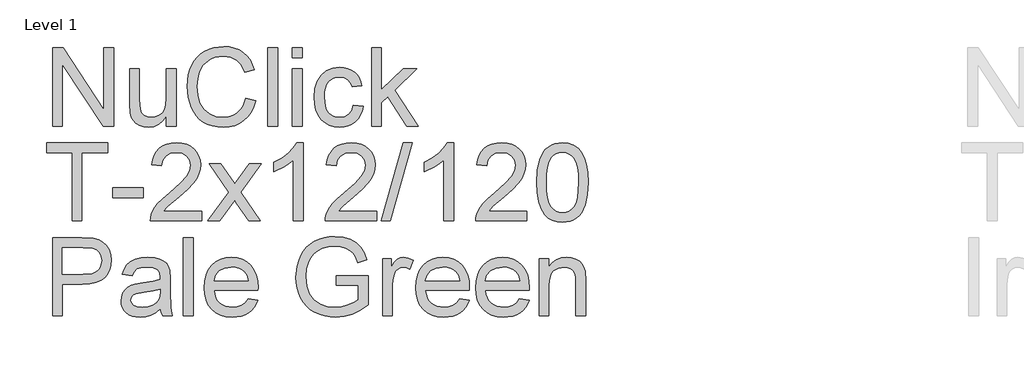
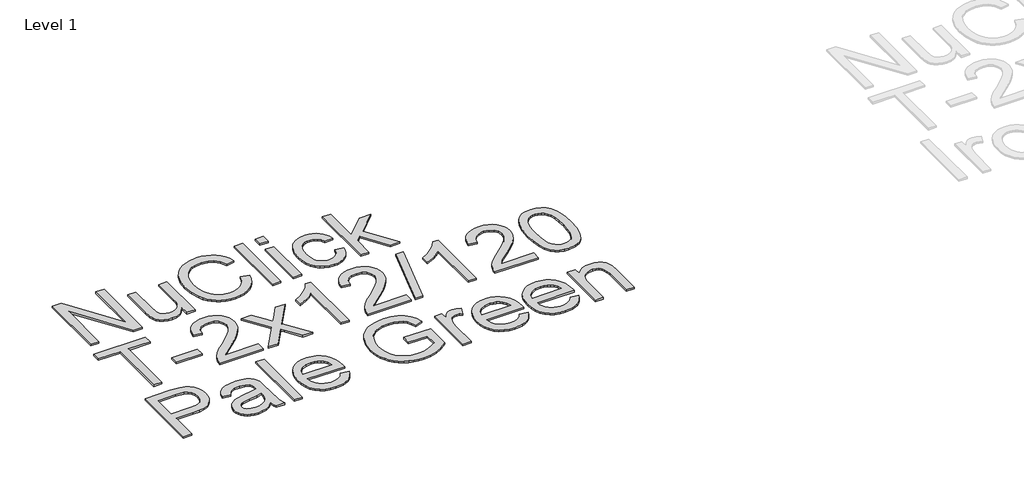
# One storey, part 9 of 13: 1 proxy.
"""IFC4 building model written with IfcOpenShell, lengths in millimetres."""

from ifc_helpers import new_model, si_unit, frame, origin, place, context, project, spatial, polyline, outline, extrude, element, save

model = new_model("IFC4")

# Units and contexts
model_context = context("Model", 3, world=origin())
ifc_project = project(units=[si_unit("LENGTHUNIT", "METRE", prefix="MILLI")], contexts=[model_context])

# Site, building, storey
site = spatial("IfcSite", under=ifc_project)
building = spatial("IfcBuilding", under=site)
storey = spatial("IfcBuildingStorey", under=building, Name="Level 1", Elevation=4000.0)

# Proxy
placement = place(None, origin())
element("IfcBuildingElementProxy", 1, Name="Elysium 400mm Arial", ObjectType="Elysium 400mm Arial", at=placement, inside=storey, context=model_context, shape_type="SweptSolid", body=[
    extrude(outline(polyline([(43483.147161, -9059.2083157), (43483.147161, -8657.3830752), (43536.9069832, -8657.3830752), (43746.8449751, -8975.7236283), (43746.8449751, -8657.3830752), (43797.0731302, -8657.3830752), (43797.0731302, -9059.2083157), (43743.313308, -9059.2083157), (43533.3753161, -8740.7696607), (43533.3753161, -9059.2083157), (43483.147161, -9059.2083157)])), frame((0.0, 0.0, 4000.0), z_axis=(0.0, 0.0, 1.0), x_axis=(1.0, 0.0, 0.0)), (0.0, 0.0, 1.0), 10.0),
    extrude(outline(polyline([(44067.0494637, -9059.2083157), (44067.0494637, -9008.4896513), (44048.8760932, -9033.4259193), (44027.7106157, -9051.2375392), (44003.5530314, -9061.9245111), (43976.4033401, -9065.4868351), (43951.9391875, -9062.9852376), (43929.167292, -9055.4804449), (43910.0619537, -9044.1987303), (43896.5974726, -9030.3663673), (43887.5353128, -9013.5664229), (43881.6369382, -8993.3819641), (43878.6938822, -8946.6854762), (43878.6938822, -8764.1179047), (43928.9220373, -8764.1179047), (43928.9220373, -8923.0429266), (43931.9631951, -8974.2521003), (43939.2840468, -8991.3340876), (43951.8288229, -9004.3203221), (43968.7636574, -9012.5240906), (43989.2546845, -9015.2586801), (44010.922934, -9012.4627769), (44031.1932319, -9004.0750674), (44047.9073373, -8990.8681038), (44058.9070089, -8973.6144382), (44065.01385, -8949.9841514), (44067.0494637, -8917.647324), (44067.0494637, -8764.1179047), (44117.2776188, -8764.1179047), (44117.2776188, -9059.2083157), (44067.0494637, -9059.2083157)])), frame((0.0, 0.0, 4000.0), z_axis=(0.0, 0.0, 1.0), x_axis=(1.0, 0.0, 0.0)), (0.0, 0.0, 1.0), 10.0),
    extrude(outline(polyline([(44475.1532237, -8916.3719998), (44525.3813788, -8929.321446), (44515.4424336, -8960.5576931), (44502.2048131, -8987.8514714), (44485.6685174, -9011.2027811), (44465.8335465, -9030.611622), (44443.1474901, -9045.8695277), (44418.0579381, -9056.7680318), (44390.5648903, -9063.3071343), (44360.6683468, -9065.4868351), (44330.039105, -9063.8374975), (44302.4081015, -9058.8894847), (44277.7753363, -9050.6427966), (44256.1408093, -9039.0974333), (44237.2071492, -9024.4250731), (44220.6769849, -9006.7973942), (44206.5503163, -8986.2143965), (44194.8271434, -8962.6760802), (44179.0450058, -8910.8047189), (44173.7842933, -8855.2545376), (44179.7317189, -8796.6631985), (44187.1660009, -8770.3657672), (44197.5739956, -8746.0671615), (44210.7227113, -8724.1689857), (44226.3791559, -8705.0728445), (44244.5433294, -8688.7787378), (44265.2152318, -8675.2866656), (44287.6928217, -8664.7069925), (44311.2740576, -8657.1500832), (44361.7474673, -8651.1045558), (44390.4759855, -8653.0604617), (44416.819402, -8658.9281795), (44440.777717, -8668.7077092), (44462.3509303, -8682.3990508), (44481.1834228, -8699.6404537), (44496.9195751, -8720.0701671), (44509.5593873, -8743.6881912), (44519.1028594, -8770.4945259), (44468.8747043, -8782.4629535), (44451.4616232, -8745.8341695), (44427.6719209, -8720.7078293), (44397.2112917, -8706.1764904), (44359.78543, -8701.3327108), (44316.6451347, -8706.703788), (44297.9628608, -8713.4176344), (44281.2058359, -8722.8170194), (44254.313662, -8747.9801478), (44236.8147418, -8780.5009162), (44227.2130217, -8817.2645903), (44224.0124484, -8855.1564358), (44227.8016329, -8901.5586181), (44239.1691866, -8941.682281), (44258.544305, -8973.9945829), (44286.3561838, -8996.9626822), (44319.6985553, -9010.6846806), (44355.6651517, -9015.2586801), (44377.5020138, -9013.7013129), (44397.5914364, -9009.0292116), (44415.9334196, -9001.242376), (44432.5279632, -8990.3408063), (44446.9826599, -8976.3735532), (44458.9051023, -8959.3896677), (44468.2952902, -8939.3891499), (44475.1532237, -8916.3719998)])), frame((0.0, 0.0, 4000.0), z_axis=(0.0, 0.0, 1.0), x_axis=(1.0, 0.0, 0.0)), (0.0, 0.0, 1.0), 10.0),
    extrude(outline(polyline([(44588.1665726, -9059.2083157), (44588.1665726, -8657.3830752), (44638.3947277, -8657.3830752), (44638.3947277, -9059.2083157), (44588.1665726, -9059.2083157)])), frame((0.0, 0.0, 4000.0), z_axis=(0.0, 0.0, 1.0), x_axis=(1.0, 0.0, 0.0)), (0.0, 0.0, 1.0), 10.0),
    extrude(outline(polyline([(44713.7369603, -8707.6112302), (44713.7369603, -8657.3830752), (44763.9651154, -8657.3830752), (44763.9651154, -8707.6112302), (44713.7369603, -8707.6112302)])), frame((0.0, 0.0, 4000.0), z_axis=(0.0, 0.0, 1.0), x_axis=(1.0, 0.0, 0.0)), (0.0, 0.0, 1.0), 10.0),
    extrude(outline(polyline([(44713.7369603, -9059.2083157), (44713.7369603, -8764.1179047), (44763.9651154, -8764.1179047), (44763.9651154, -9059.2083157), (44713.7369603, -9059.2083157)])), frame((0.0, 0.0, 4000.0), z_axis=(0.0, 0.0, 1.0), x_axis=(1.0, 0.0, 0.0)), (0.0, 0.0, 1.0), 10.0),
    extrude(outline(polyline([(45027.6629296, -8952.4734862), (45077.8910846, -8958.7520056), (45072.428037, -8982.4528031), (45063.8870433, -9003.4251425), (45052.2681037, -9021.6690238), (45037.571218, -9037.184447), (45020.4156542, -9049.5667418), (45001.4206806, -9058.4112381), (44980.5862969, -9063.7179359), (44957.9125033, -9065.4868351), (44929.7419395, -9063.0189601), (44904.4837748, -9055.6153349), (44882.1380093, -9043.2759597), (44862.7046429, -9026.0008343), (44846.9746219, -9004.1149213), (44835.7388927, -8977.943183), (44828.9974551, -8947.4856195), (44826.7503093, -8912.7422307), (44830.5885447, -8868.0445683), (44842.1032512, -8829.3065942), (44861.4783696, -8798.0243619), (44888.897841, -8775.6939248), (44921.7006522, -8762.3030202), (44957.2257902, -8757.8393853), (44979.5102421, -8759.3722269), (44999.6671097, -8763.9707519), (45017.6963932, -8771.6349601), (45033.5980924, -8782.3648516), (45047.1024273, -8795.9151718), (45057.9396178, -8812.0406659), (45066.1096637, -8830.741334), (45071.6125652, -8852.0171761), (45021.3844102, -8858.2956955), (45012.2731994, -8836.3821913), (44998.0852171, -8820.6736301), (44979.6052782, -8811.2190628), (44957.6181977, -8808.0675404), (44940.5515388, -8809.6187761), (44925.158743, -8814.2724834), (44911.4398102, -8822.0286621), (44899.3947406, -8832.8873123), (44889.5876197, -8847.0998201), (44882.5825334, -8864.9175714), (44878.3794816, -8886.3405662), (44876.9784643, -8911.3688046), (44882.4599061, -8958.4454373), (44889.3117082, -8976.3827502), (44898.9042312, -8990.5860609), (44910.7101776, -9001.3803318), (44924.2022498, -9009.0905253), (44939.3804478, -9013.7166414), (44956.2447716, -9015.2586801), (44982.2540286, -9011.4081818), (45003.5789216, -8999.8566872), (45019.0912791, -8980.3098905), (45027.6629296, -8952.4734862)])), frame((0.0, 0.0, 4000.0), z_axis=(0.0, 0.0, 1.0), x_axis=(1.0, 0.0, 0.0)), (0.0, 0.0, 1.0), 10.0),
    extrude(outline(polyline([(45121.8407203, -9059.2083157), (45121.8407203, -8657.3830752), (45172.0688754, -8657.3830752), (45172.0688754, -8873.3052809), (45284.6898168, -8764.1179047), (45354.1459375, -8764.1179047), (45240.15157, -8874.678707), (45360.4244569, -9059.2083157), (45301.7595414, -9059.2083157), (45204.1481854, -8909.602971), (45172.0688754, -8940.7012624), (45172.0688754, -9059.2083157), (45121.8407203, -9059.2083157)])), frame((0.0, 0.0, 4000.0), z_axis=(0.0, 0.0, 1.0), x_axis=(1.0, 0.0, 0.0)), (0.0, 0.0, 1.0), 10.0),
    extrude(outline(polyline([(43583.6034712, -9547.1075871), (43583.6034712, -9195.5105016), (43451.7545641, -9195.5105016), (43451.7545641, -9145.2823465), (43765.6805333, -9145.2823465), (43765.6805333, -9195.5105016), (43633.8316262, -9195.5105016), (43633.8316262, -9547.1075871), (43583.6034712, -9547.1075871)])), frame((0.0, 0.0, 4000.0), z_axis=(0.0, 0.0, 1.0), x_axis=(1.0, 0.0, 0.0)), (0.0, 0.0, 1.0), 10.0),
    extrude(outline(polyline([(43790.7946108, -9427.8157188), (43790.7946108, -9377.5875638), (43947.7575954, -9377.5875638), (43947.7575954, -9427.8157188), (43790.7946108, -9427.8157188)])), frame((0.0, 0.0, 4000.0), z_axis=(0.0, 0.0, 1.0), x_axis=(1.0, 0.0, 0.0)), (0.0, 0.0, 1.0), 10.0),
    extrude(outline(polyline([(44249.1265259, -9496.8794321), (44249.1265259, -9547.1075871), (43985.4287117, -9547.1075871), (43986.5323577, -9529.4247259), (43990.8243143, -9512.4776287), (44003.2096748, -9485.4137765), (44021.3339945, -9459.1592648), (44047.551718, -9431.6784798), (44084.2172902, -9400.9358077), (44138.4185708, -9352.7923173), (44170.9393392, -9317.2549165), (44187.1997234, -9288.4129681), (44192.6198514, -9260.3558346), (44187.5062917, -9235.2049689), (44172.1656125, -9214.2970088), (44148.5843766, -9200.2071284), (44118.7491468, -9195.5105016), (44087.4178635, -9200.0967638), (44063.0763382, -9213.8555504), (44047.367777, -9235.7077409), (44041.9353862, -9264.5742148), (43991.7072311, -9258.2956955), (43996.0267789, -9232.3661462), (44003.8841252, -9209.7107466), (44015.27927, -9190.3294968), (44030.2122133, -9174.2223968), (44048.3395986, -9161.5611248), (44069.3180694, -9152.5173591), (44093.1476256, -9147.0910997), (44119.8282673, -9145.2823465), (44146.7480323, -9147.2934348), (44170.7063473, -9153.3266995), (44191.7032121, -9163.3821407), (44209.7386269, -9177.4597584), (44224.2239805, -9194.5172202), (44234.5706616, -9213.5121939), (44240.7786703, -9234.4446794), (44242.8480065, -9257.3146768), (44240.6161891, -9281.3373711), (44233.9207368, -9304.9431324), (44222.0381483, -9328.953564), (44204.2449225, -9354.1902689), (44175.8812207, -9384.3198043), (44132.2872042, -9423.0087274), (44074.5052055, -9471.3238961), (44051.8436746, -9496.8794321), (44249.1265259, -9496.8794321)])), frame((0.0, 0.0, 4000.0), z_axis=(0.0, 0.0, 1.0), x_axis=(1.0, 0.0, 0.0)), (0.0, 0.0, 1.0), 10.0),
    extrude(outline(polyline([(44280.5191228, -9547.1075871), (44387.8425635, -9398.7775667), (44286.7976422, -9252.0171761), (44347.2283913, -9252.0171761), (44395.9850184, -9322.6505191), (44418.7446511, -9356.0051534), (44438.4631261, -9328.7328348), (44493.9887819, -9252.0171761), (44554.419531, -9252.0171761), (44448.2733126, -9398.7775667), (44550.4954563, -9547.1075871), (44490.0647073, -9547.1075871), (44428.5548377, -9457.9329915), (44417.2731232, -9441.6480818), (44340.9498719, -9547.1075871), (44280.5191228, -9547.1075871)])), frame((0.0, 0.0, 4000.0), z_axis=(0.0, 0.0, 1.0), x_axis=(1.0, 0.0, 0.0)), (0.0, 0.0, 1.0), 10.0),
    extrude(outline(polyline([(44770.2436348, -9547.1075871), (44720.0154797, -9547.1075871), (44720.0154797, -9233.9664328), (44699.046206, -9250.9257928), (44672.436075, -9267.8606273), (44619.5591696, -9293.2199595), (44619.5591696, -9245.7386567), (44659.0083822, -9224.2788736), (44693.1846195, -9198.7478632), (44720.1258443, -9171.5981719), (44737.8700192, -9145.2823465), (44770.2436348, -9145.2823465), (44770.2436348, -9547.1075871)])), frame((0.0, 0.0, 4000.0), z_axis=(0.0, 0.0, 1.0), x_axis=(1.0, 0.0, 0.0)), (0.0, 0.0, 1.0), 10.0),
    extrude(outline(polyline([(45146.9547979, -9496.8794321), (45146.9547979, -9547.1075871), (44883.2569837, -9547.1075871), (44884.3606297, -9529.4247259), (44888.6525863, -9512.4776287), (44901.0379468, -9485.4137765), (44919.1622664, -9459.1592648), (44945.37999, -9431.6784798), (44982.0455621, -9400.9358077), (45036.2468428, -9352.7923173), (45068.7676111, -9317.2549165), (45085.0279953, -9288.4129681), (45090.4481234, -9260.3558346), (45085.3345637, -9235.2049689), (45069.9938845, -9214.2970088), (45046.4126486, -9200.2071284), (45016.5774188, -9195.5105016), (44985.2461355, -9200.0967638), (44960.9046102, -9213.8555504), (44945.196049, -9235.7077409), (44939.7636582, -9264.5742148), (44889.5355031, -9258.2956955), (44893.8550509, -9232.3661462), (44901.7123971, -9209.7107466), (44913.1075419, -9190.3294968), (44928.0404853, -9174.2223968), (44946.1678706, -9161.5611248), (44967.1463413, -9152.5173591), (44990.9758976, -9147.0910997), (45017.6565393, -9145.2823465), (45044.5763043, -9147.2934348), (45068.5346192, -9153.3266995), (45089.5314841, -9163.3821407), (45107.5668989, -9177.4597584), (45122.0522525, -9194.5172202), (45132.3989336, -9213.5121939), (45138.6069422, -9234.4446794), (45140.6762785, -9257.3146768), (45138.444461, -9281.3373711), (45131.7490087, -9304.9431324), (45119.8664203, -9328.953564), (45102.0731944, -9354.1902689), (45073.7094926, -9384.3198043), (45030.1154762, -9423.0087274), (44972.3334775, -9471.3238961), (44949.6719466, -9496.8794321), (45146.9547979, -9496.8794321)])), frame((0.0, 0.0, 4000.0), z_axis=(0.0, 0.0, 1.0), x_axis=(1.0, 0.0, 0.0)), (0.0, 0.0, 1.0), 10.0),
    extrude(outline(polyline([(45172.0688754, -9547.1075871), (45285.0822243, -9145.2823465), (45330.4052861, -9145.2823465), (45217.3919372, -9547.1075871), (45172.0688754, -9547.1075871)])), frame((0.0, 0.0, 4000.0), z_axis=(0.0, 0.0, 1.0), x_axis=(1.0, 0.0, 0.0)), (0.0, 0.0, 1.0), 10.0),
    extrude(outline(polyline([(45542.5015191, -9547.1075871), (45492.273364, -9547.1075871), (45492.273364, -9233.9664328), (45471.3040903, -9250.9257928), (45444.6939593, -9267.8606273), (45391.8170538, -9293.2199595), (45391.8170538, -9245.7386567), (45431.2662665, -9224.2788736), (45465.4425038, -9198.7478632), (45492.3837286, -9171.5981719), (45510.1279035, -9145.2823465), (45542.5015191, -9145.2823465), (45542.5015191, -9547.1075871)])), frame((0.0, 0.0, 4000.0), z_axis=(0.0, 0.0, 1.0), x_axis=(1.0, 0.0, 0.0)), (0.0, 0.0, 1.0), 10.0),
    extrude(outline(polyline([(45919.2126821, -9496.8794321), (45919.2126821, -9547.1075871), (45655.514868, -9547.1075871), (45656.618514, -9529.4247259), (45660.9104706, -9512.4776287), (45673.2958311, -9485.4137765), (45691.4201507, -9459.1592648), (45717.6378742, -9431.6784798), (45754.3034464, -9400.9358077), (45808.504727, -9352.7923173), (45841.0254954, -9317.2549165), (45857.2858796, -9288.4129681), (45862.7060077, -9260.3558346), (45857.5924479, -9235.2049689), (45842.2517687, -9214.2970088), (45818.6705328, -9200.2071284), (45788.835303, -9195.5105016), (45757.5040198, -9200.0967638), (45733.1624944, -9213.8555504), (45717.4539332, -9235.7077409), (45712.0215424, -9264.5742148), (45661.7933874, -9258.2956955), (45666.1129351, -9232.3661462), (45673.9702814, -9209.7107466), (45685.3654262, -9190.3294968), (45700.2983695, -9174.2223968), (45718.4257548, -9161.5611248), (45739.4042256, -9152.5173591), (45763.2337819, -9147.0910997), (45789.9144236, -9145.2823465), (45816.8341886, -9147.2934348), (45840.7925035, -9153.3266995), (45861.7893684, -9163.3821407), (45879.8247832, -9177.4597584), (45894.3101367, -9194.5172202), (45904.6568179, -9213.5121939), (45910.8648265, -9234.4446794), (45912.9341627, -9257.3146768), (45910.7023453, -9281.3373711), (45904.006893, -9304.9431324), (45892.1243046, -9328.953564), (45874.3310787, -9354.1902689), (45845.9673769, -9384.3198043), (45802.3733605, -9423.0087274), (45744.5913618, -9471.3238961), (45721.9298308, -9496.8794321), (45919.2126821, -9496.8794321)])), frame((0.0, 0.0, 4000.0), z_axis=(0.0, 0.0, 1.0), x_axis=(1.0, 0.0, 0.0)), (0.0, 0.0, 1.0), 10.0),
    extrude(outline(polyline([(45969.4408372, -9349.4323284), (45973.1319199, -9285.1142929), (45984.2051679, -9233.81928), (46002.5502168, -9194.7624749), (46014.4082797, -9179.5290946), (46028.0567018, -9167.1590625), (46043.5414681, -9157.5879993), (46060.9085639, -9150.7515255), (46101.2897443, -9145.2823465), (46132.2408828, -9148.5197081), (46159.9546598, -9158.2317928), (46183.1312255, -9174.0384558), (46200.4707302, -9195.5595525), (46213.5673292, -9222.6111419), (46224.0151779, -9255.009283), (46230.857783, -9296.1507528), (46233.1386513, -9349.4323284), (46229.4843569, -9413.3824819), (46218.5214734, -9464.5548674), (46200.2867892, -9503.6484608), (46188.4563173, -9518.9278263), (46174.8170924, -9531.3622377), (46159.313932, -9540.9976803), (46141.8916538, -9547.8801393), (46101.2897443, -9553.3861065), (46073.6250182, -9550.9948735), (46049.0995519, -9543.8211746), (46027.7133452, -9531.8650098), (46009.4663983, -9515.126379), (45991.9552153, -9484.8680849), (45979.4472275, -9447.1663118), (45971.9424348, -9402.0210596), (45969.4408372, -9349.4323284)]), holes=[polyline([(46019.6689923, -9349.3342265), (46021.1405203, -9392.9987537), (46025.5551042, -9428.3430164), (46032.9127441, -9455.3670146), (46043.21344, -9474.0707484), (46055.6723769, -9486.7963997), (46069.5047399, -9495.8861507), (46084.710529, -9501.3400012), (46101.2897443, -9503.1579514), (46117.8689595, -9501.3338699), (46133.0747487, -9495.8616252), (46146.9071117, -9486.7412174), (46159.3660486, -9473.9726465), (46169.6667444, -9455.2382559), (46177.0243843, -9428.220389), (46181.4389683, -9392.9190459), (46182.9104963, -9349.3342265), (46181.4880192, -9306.825462), (46177.2205881, -9272.103533), (46170.1082028, -9245.1684396), (46160.1508635, -9226.0201817), (46147.9003931, -9212.6721967), (46133.9086145, -9203.1379216), (46118.1755279, -9197.4173566), (46100.7011331, -9195.5105016), (46084.207757, -9197.1904961), (46069.2594852, -9202.2304794), (46055.8563179, -9210.6304516), (46043.9982549, -9222.3904127), (46033.3542025, -9243.2370591), (46025.7513079, -9271.3432435), (46021.1895712, -9306.708966), (46019.6689923, -9349.3342265)])]), frame((0.0, 0.0, 4000.0), z_axis=(0.0, 0.0, 1.0), x_axis=(1.0, 0.0, 0.0)), (0.0, 0.0, 1.0), 10.0),
    extrude(outline(polyline([(43483.147161, -10035.0068585), (43483.147161, -9633.1816179), (43632.0657926, -9633.1816179), (43692.1041343, -9637.0075907), (43718.8736808, -9644.1567641), (43740.9098123, -9655.7940979), (43758.6539872, -9672.4468895), (43772.5476639, -9694.6424366), (43781.5239846, -9720.8233719), (43784.5160914, -9749.4323284), (43782.4958062, -9774.0988162), (43776.4349503, -9796.7910039), (43766.3335238, -9817.5088916), (43752.1915268, -9836.2524793), (43732.7765545, -9851.7893622), (43706.8562023, -9862.8871357), (43674.4304701, -9869.5457998), (43635.4993579, -9871.7653545), (43533.3753161, -9871.7653545), (43533.3753161, -10035.0068585), (43483.147161, -10035.0068585)]), holes=[polyline([(43533.3753161, -9821.5371994), (43638.4424139, -9821.5371994), (43682.9806608, -9816.9264118), (43699.5844015, -9811.1629272), (43712.4112204, -9803.0940488), (43721.9822836, -9792.9343743), (43728.8187574, -9780.8985017), (43734.2879364, -9751.198162), (43731.0628376, -9728.6347329), (43721.3875411, -9709.602971), (43706.4637948, -9695.2800987), (43687.4933466, -9686.8433383), (43637.2651915, -9683.409773), (43533.3753161, -9683.409773), (43533.3753161, -9821.5371994)])]), frame((0.0, 0.0, 4000.0), z_axis=(0.0, 0.0, 1.0), x_axis=(1.0, 0.0, 0.0)), (0.0, 0.0, 1.0), 10.0),
    extrude(outline(polyline([(44035.6568668, -9997.3357422), (44011.658698, -10017.9126085), (43986.9492907, -10031.3770895), (43960.9645591, -10038.8083058), (43933.1404175, -10041.2853779), (43910.7762579, -10039.7954558), (43891.1650819, -10035.3256896), (43874.3068894, -10027.8760792), (43860.2016806, -10017.4466246), (43849.0640532, -10004.6995135), (43841.108605, -9990.2969334), (43836.3353362, -9974.2388843), (43834.7442465, -9956.5253662), (43837.1477422, -9935.7032453), (43844.3582293, -9916.7941107), (43855.4805283, -9900.6073029), (43869.6194597, -9887.9521623), (43886.2354631, -9878.3872304), (43904.7889784, -9871.4710489), (43948.2481048, -9863.9172053), (43999.6044313, -9855.9709542), (44035.3625612, -9846.651277), (44035.6568668, -9835.4676643), (44032.1987761, -9813.0513881), (44021.8245038, -9798.3851592), (43998.6234126, -9787.4958522), (43966.298848, -9783.8660831), (43936.3777791, -9786.2818416), (43915.4820817, -9793.5291169), (43901.2327858, -9806.9322842), (43891.250921, -9827.8157188), (43841.0227659, -9821.5371994), (43849.7415692, -9794.0686771), (43862.7523291, -9772.4862668), (43881.2690562, -9755.9806279), (43906.5057611, -9743.7424202), (43937.3710604, -9736.1640511), (43972.7735711, -9733.6379281), (44006.7290793, -9735.8697455), (44033.6457786, -9742.5651978), (44053.940602, -9752.6329017), (44068.0304824, -9764.9814741), (44077.3746851, -9780.2485769), (44083.4324753, -9799.0718723), (44085.8850219, -9843.021508), (44085.8850219, -9905.5123962), (44088.4356704, -9992.7740055), (44098.4420607, -10035.0068585), (44048.2139056, -10035.0068585), (44040.1695526, -10017.5447265), (44035.6568668, -9997.3357422)]), holes=[polyline([(44035.6568668, -9896.8794321), (44001.9098251, -9905.2426161), (43954.624726, -9912.2814249), (43911.4108543, -9920.4238797), (43900.165928, -9925.9911606), (43891.8395322, -9933.6676316), (43886.6891842, -9942.8646815), (43884.9724016, -9952.9936991), (43888.7125352, -9967.9297081), (43899.9329361, -9980.1679158), (43918.3883495, -9988.3348961), (43943.8335208, -9991.0572228), (43970.8115338, -9988.0528532), (43994.6502871, -9979.0397443), (44013.9763546, -9965.7592043), (44027.4163101, -9949.9525412), (44033.3759985, -9933.6676316), (44035.3625612, -9911.1042025), (44035.6568668, -9896.8794321)])]), frame((0.0, 0.0, 4000.0), z_axis=(0.0, 0.0, 1.0), x_axis=(1.0, 0.0, 0.0)), (0.0, 0.0, 1.0), 10.0),
    extrude(outline(polyline([(44154.9487351, -10035.0068585), (44154.9487351, -9633.1816179), (44205.1768902, -9633.1816179), (44205.1768902, -10035.0068585), (44154.9487351, -10035.0068585)])), frame((0.0, 0.0, 4000.0), z_axis=(0.0, 0.0, 1.0), x_axis=(1.0, 0.0, 0.0)), (0.0, 0.0, 1.0), 10.0),
    extrude(outline(polyline([(44487.1216513, -9947.1075871), (44536.3687877, -9953.3861065), (44528.8180098, -9973.1107128), (44518.6246128, -9990.4931371), (44505.7885969, -10005.5333793), (44490.3099619, -10018.2314395), (44472.3481235, -10028.3175376), (44452.0624972, -10035.5218933), (44404.5198807, -10041.2853779), (44373.3541443, -10038.7991087), (44345.585185, -10031.3403013), (44321.2130028, -10018.9089555), (44300.2375978, -10001.5050715), (44283.3702083, -9979.6130271), (44271.3220729, -9953.7172003), (44264.0931917, -9923.8175912), (44261.6835647, -9889.9141996), (44264.1177172, -9854.8611768), (44271.4201748, -9823.9652206), (44283.5909375, -9797.2263309), (44300.6300052, -9774.6445078), (44321.550228, -9756.7041292), (44345.3644558, -9743.889573), (44372.0726887, -9736.2008393), (44401.6749266, -9733.6379281), (44430.3237369, -9736.1947079), (44456.2318264, -9743.8650475), (44479.3991951, -9756.6489469), (44499.8258429, -9774.5464059), (44516.5000943, -9797.0791781), (44528.4102739, -9823.7690169), (44535.5563817, -9854.6159222), (44537.9384176, -9889.619894), (44537.644112, -9903.1579514), (44311.9117197, -9903.1579514), (44314.8210532, -9923.2013888), (44320.6059976, -9940.7554913), (44329.2665529, -9955.820259), (44340.8027191, -9968.3956919), (44354.5768341, -9978.3101117), (44369.9512358, -9985.3918401), (44405.5008993, -9991.0572228), (44432.2336576, -9988.4329979), (44454.7480357, -9980.5603232), (44473.0440336, -9966.9486894), (44487.1216513, -9947.1075871)]), holes=[polyline([(44311.9117197, -9852.9297964), (44487.7102625, -9852.9297964), (44480.9167083, -9826.3932418), (44467.5993801, -9807.4105308), (44453.9019071, -9797.109835), (44438.3159733, -9789.7521951), (44420.8415785, -9785.3376111), (44401.4787228, -9783.8660831), (44367.6213165, -9788.5627099), (44339.6254967, -9802.6525904), (44320.1645392, -9824.6151455), (44311.9117197, -9852.9297964)])]), frame((0.0, 0.0, 4000.0), z_axis=(0.0, 0.0, 1.0), x_axis=(1.0, 0.0, 0.0)), (0.0, 0.0, 1.0), 10.0),
    extrude(outline(polyline([(44939.7636582, -9878.0438739), (44939.7636582, -9827.8157188), (45103.0051622, -9827.8157188), (45103.0051622, -9978.0096747), (45063.3352203, -10005.6008244), (45022.4144798, -10025.3928757), (44980.3410422, -10037.3122523), (44937.2130097, -10041.2853779), (44908.3618642, -10039.706551), (44880.8657507, -10034.9700703), (44854.7246693, -10027.0759358), (44829.9386199, -10016.0241476), (44807.3077458, -10001.9802524), (44787.6321904, -9985.1097972), (44770.9119538, -9965.4127821), (44757.1470358, -9942.8892069), (44746.3956845, -9918.2595073), (44738.7161478, -9892.2441189), (44734.1084258, -9864.8430416), (44732.5725185, -9836.0562755), (44738.6916223, -9779.4637619), (44746.3405022, -9752.6482302), (44757.0489339, -9726.8198484), (44770.6268452, -9703.1129195), (44786.8841637, -9682.6617463), (44805.8208894, -9665.4663287), (44827.4370223, -9651.5266667), (44851.2635129, -9640.7538556), (44876.8313115, -9633.0589906), (44904.1404183, -9628.4420715), (44933.1908332, -9626.9030985), (44974.5652949, -9630.4715539), (45011.7704274, -9641.1769199), (45043.1017106, -9658.2466445), (45066.8546248, -9680.9081754), (45084.4271214, -9710.2528959), (45097.2171521, -9747.3721892), (45050.9130716, -9760.4197373), (45040.5755876, -9733.9444964), (45028.0062861, -9713.9685041), (45011.3780199, -9698.9098677), (44988.8636418, -9687.1866948), (44962.0205189, -9679.6451139), (44932.4060183, -9677.1312536), (44897.7392716, -9679.8413176), (44868.1002455, -9687.9715097), (44843.5993046, -9700.504023), (44824.3468135, -9716.4210507), (44809.5702201, -9734.9009896), (44798.496972, -9755.1222366), (44786.7247482, -9793.0386076), (44782.8006736, -9833.9961363), (44787.5218258, -9882.0292622), (44801.6852826, -9921.5520512), (44824.8618483, -9952.2824605), (44856.6223273, -9973.9384473), (44893.7906715, -9986.7775289), (44933.1908332, -9991.0572228), (44967.9802072, -9987.832124), (45001.9111899, -9978.1568275), (45031.3785377, -9964.8272366), (45052.7770071, -9950.6392543), (45052.7770071, -9878.0438739), (44939.7636582, -9878.0438739)])), frame((0.0, 0.0, 4000.0), z_axis=(0.0, 0.0, 1.0), x_axis=(1.0, 0.0, 0.0)), (0.0, 0.0, 1.0), 10.0),
    extrude(outline(polyline([(45178.3473948, -10035.0068585), (45178.3473948, -9739.9164474), (45222.2970305, -9739.9164474), (45222.2970305, -9783.5717775), (45238.5328892, -9758.2614963), (45253.4934237, -9743.3500127), (45268.5030091, -9736.0659492), (45284.8860206, -9733.6379281), (45309.9019963, -9737.5129517), (45335.3103794, -9749.1380228), (45318.5349604, -9794.166779), (45300.8766246, -9786.4412571), (45283.2182889, -9783.8660831), (45268.2209662, -9786.3431552), (45254.8177988, -9793.7743715), (45243.9898054, -9805.5956463), (45236.7180047, -9821.2428938), (45230.6111636, -9849.3000273), (45228.5755499, -9879.9078093), (45228.5755499, -10035.0068585), (45178.3473948, -10035.0068585)])), frame((0.0, 0.0, 4000.0), z_axis=(0.0, 0.0, 1.0), x_axis=(1.0, 0.0, 0.0)), (0.0, 0.0, 1.0), 10.0),
    extrude(outline(polyline([(45573.3055048, -9947.1075871), (45622.5526412, -9953.3861065), (45615.0018633, -9973.1107128), (45604.8084663, -9990.4931371), (45591.9724504, -10005.5333793), (45576.4938154, -10018.2314395), (45558.531977, -10028.3175376), (45538.2463507, -10035.5218933), (45490.7037341, -10041.2853779), (45459.5379978, -10038.7991087), (45431.7690385, -10031.3403013), (45407.3968563, -10018.9089555), (45386.4214512, -10001.5050715), (45369.5540618, -9979.6130271), (45357.5059264, -9953.7172003), (45350.2770452, -9923.8175912), (45347.8674182, -9889.9141996), (45350.3015707, -9854.8611768), (45357.6040283, -9823.9652206), (45369.774791, -9797.2263309), (45386.8138587, -9774.6445078), (45407.7340815, -9756.7041292), (45431.5483093, -9743.889573), (45458.2565422, -9736.2008393), (45487.8587801, -9733.6379281), (45516.5075904, -9736.1947079), (45542.4156799, -9743.8650475), (45565.5830486, -9756.6489469), (45586.0096964, -9774.5464059), (45602.6839478, -9797.0791781), (45614.5941274, -9823.7690169), (45621.7402351, -9854.6159222), (45624.1222711, -9889.619894), (45623.8279655, -9903.1579514), (45398.0955732, -9903.1579514), (45401.0049067, -9923.2013888), (45406.789851, -9940.7554913), (45415.4504064, -9955.820259), (45426.9865726, -9968.3956919), (45440.7606876, -9978.3101117), (45456.1350893, -9985.3918401), (45491.6847528, -9991.0572228), (45518.4175111, -9988.4329979), (45540.9318892, -9980.5603232), (45559.2278871, -9966.9486894), (45573.3055048, -9947.1075871)]), holes=[polyline([(45398.0955732, -9852.9297964), (45573.894116, -9852.9297964), (45567.1005618, -9826.3932418), (45553.7832336, -9807.4105308), (45540.0857606, -9797.109835), (45524.4998268, -9789.7521951), (45507.025432, -9785.3376111), (45487.6625763, -9783.8660831), (45453.80517, -9788.5627099), (45425.8093502, -9802.6525904), (45406.3483927, -9824.6151455), (45398.0955732, -9852.9297964)])]), frame((0.0, 0.0, 4000.0), z_axis=(0.0, 0.0, 1.0), x_axis=(1.0, 0.0, 0.0)), (0.0, 0.0, 1.0), 10.0),
    extrude(outline(polyline([(45880.9529546, -9947.1075871), (45930.2000911, -9953.3861065), (45922.6493131, -9973.1107128), (45912.4559162, -9990.4931371), (45899.6199002, -10005.5333793), (45884.1412653, -10018.2314395), (45866.1794268, -10028.3175376), (45845.8938005, -10035.5218933), (45798.351184, -10041.2853779), (45767.1854476, -10038.7991087), (45739.4164884, -10031.3403013), (45715.0443062, -10018.9089555), (45694.0689011, -10001.5050715), (45677.2015116, -9979.6130271), (45665.1533763, -9953.7172003), (45657.9244951, -9923.8175912), (45655.514868, -9889.9141996), (45657.9490205, -9854.8611768), (45665.2514781, -9823.9652206), (45677.4222408, -9797.2263309), (45694.4613085, -9774.6445078), (45715.3815313, -9756.7041292), (45739.1957592, -9743.889573), (45765.903992, -9736.2008393), (45795.5062299, -9733.6379281), (45824.1550403, -9736.1947079), (45850.0631298, -9743.8650475), (45873.2304984, -9756.6489469), (45893.6571462, -9774.5464059), (45910.3313976, -9797.0791781), (45922.2415772, -9823.7690169), (45929.387685, -9854.6159222), (45931.7697209, -9889.619894), (45931.4754153, -9903.1579514), (45705.7430231, -9903.1579514), (45708.6523565, -9923.2013888), (45714.4373009, -9940.7554913), (45723.0978562, -9955.820259), (45734.6340224, -9968.3956919), (45748.4081375, -9978.3101117), (45763.7825392, -9985.3918401), (45799.3322026, -9991.0572228), (45826.0649609, -9988.4329979), (45848.5793391, -9980.5603232), (45866.8753369, -9966.9486894), (45880.9529546, -9947.1075871)]), holes=[polyline([(45705.7430231, -9852.9297964), (45881.5415658, -9852.9297964), (45874.7480116, -9826.3932418), (45861.4306834, -9807.4105308), (45847.7332105, -9797.109835), (45832.1472766, -9789.7521951), (45814.6728818, -9785.3376111), (45795.3100262, -9783.8660831), (45761.4526199, -9788.5627099), (45733.4568, -9802.6525904), (45713.9958425, -9824.6151455), (45705.7430231, -9852.9297964)])]), frame((0.0, 0.0, 4000.0), z_axis=(0.0, 0.0, 1.0), x_axis=(1.0, 0.0, 0.0)), (0.0, 0.0, 1.0), 10.0),
    extrude(outline(polyline([(45981.997876, -10035.0068585), (45981.997876, -9739.9164474), (46032.226031, -9739.9164474), (46032.226031, -9781.1192309), (46049.6759004, -9760.3461609), (46070.6329113, -9745.5082538), (46095.097064, -9736.6055095), (46123.0683584, -9733.6379281), (46147.8268167, -9736.029161), (46170.5006103, -9743.2028599), (46189.4097449, -9754.2638453), (46202.8742259, -9768.3169375), (46212.0099621, -9785.3253484), (46217.9328622, -9805.2522898), (46220.5816126, -9853.8127132), (46220.5816126, -10035.0068585), (46170.3534575, -10035.0068585), (46170.3534575, -9860.5817419), (46168.906455, -9834.609273), (46164.5654474, -9816.1415968), (46156.5578827, -9802.9101078), (46144.1112085, -9792.6462001), (46128.1573927, -9786.0611124), (46109.6284028, -9783.8660831), (46080.210106, -9788.7957019), (46055.1328166, -9803.5845581), (46045.1110979, -9815.6572189), (46037.9527274, -9832.1567264), (46033.6577051, -9853.0830805), (46032.226031, -9878.4362814), (46032.226031, -10035.0068585), (45981.997876, -10035.0068585)])), frame((0.0, 0.0, 4000.0), z_axis=(0.0, 0.0, 1.0), x_axis=(1.0, 0.0, 0.0)), (0.0, 0.0, 1.0), 10.0),
])

save(model, "model.ifc")
